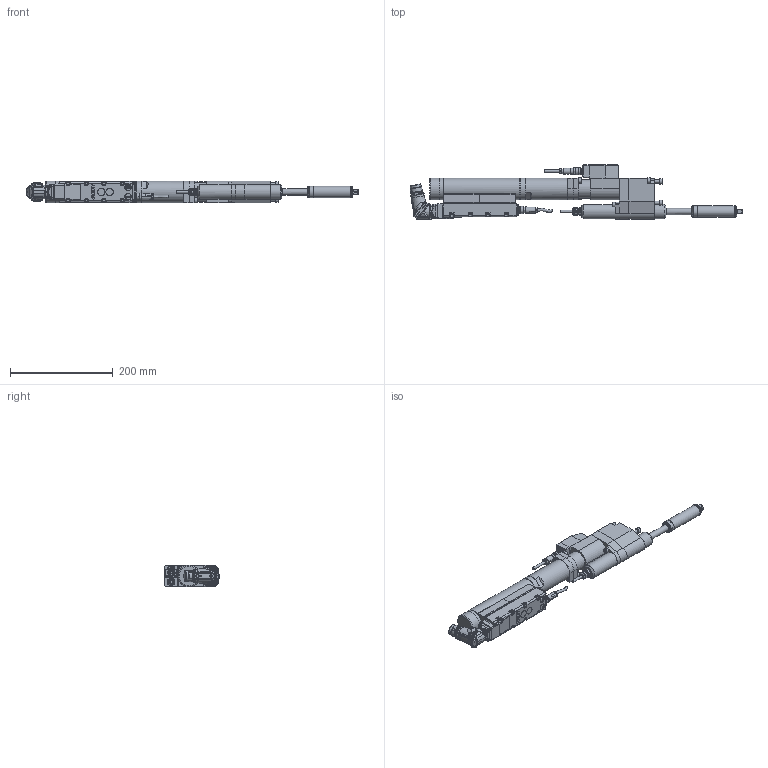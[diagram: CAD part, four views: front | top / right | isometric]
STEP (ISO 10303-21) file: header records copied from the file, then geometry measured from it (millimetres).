
FILE_DESCRIPTION (( 'STEP AP214' ), '1' );
FILE_NAME ('70082487_ESX106ZWRX65AODX150-65.STEP', '2016-11-14T13:25:30', ( 'admin' ), ( '' ), 'SwSTEP 2.0', 'SolidWorks 2014', '' );
FILE_SCHEMA (( 'AUTOMOTIVE_DESIGN' ));
Length unit declared in the file: millimetre
Products named in the file (11): 7002230_3; 70082381; 70082331; 70082302_ESX106_Standard_Winkel; 70082293_2; 70057493_Standard_winkel; 70057493_4; 70057493_3; 70057493_2; 70082302; 70082487_ESX106ZWRX65AODX150-65
Assembly tree (10 placements, depth 4):
  70082487_ESX106ZWRX65AODX150-65
    70082302_ESX106_Standard_Winkel
      70082302
      70057493_Standard_winkel
        70057493_2
        70057493_3
        70057493_4
      70082293_2
    70082331
    70082381
    7002230_3
Bounding box: 645.96 x 106.94 x 42.53 mm (x, y, z)
Volume: 1176265.6 mm3; surface area: 165820.7 mm2
Topology: 12 solids, 12 shells, 2515 faces, 6488 edges, 4179 vertices
Faces by surface type: plane 1175, cylinder 672, cone 329, bspline 265, torus 71, sphere 3
Full cylindrical faces by diameter (mm): 0.5 x7, 0.57 x14, 2 x3, 2.5 x5, 3 x4, 3.5 x1, 4.2 x1, 4.7 x1, 4.9 x3, 5 x13, 5.5 x12, 6 x9, 8.459 x2, 8.5 x2, 9 x1, 9.5 x1, 9.7 x1, 10 x9, 11.08 x2, 11.7 x1, 12 x1, 12.1 x1, 12.3 x2, 12.5 x1, 13 x1, 14 x5, 14.5 x2, 16 x1, 17.4 x1, 18 x1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
Entity records: 89247 total; most frequent: CARTESIAN_POINT 30322, ORIENTED_EDGE 12134, DIRECTION 10523, EDGE_CURVE 6067, VERTEX_POINT 4057, AXIS2_PLACEMENT_3D 3916, EDGE_LOOP 3010, FACE_OUTER_BOUND 2708
